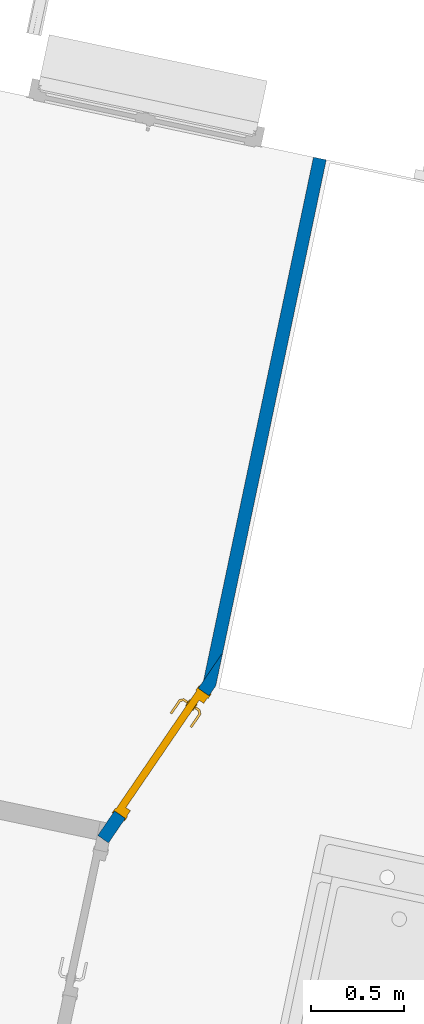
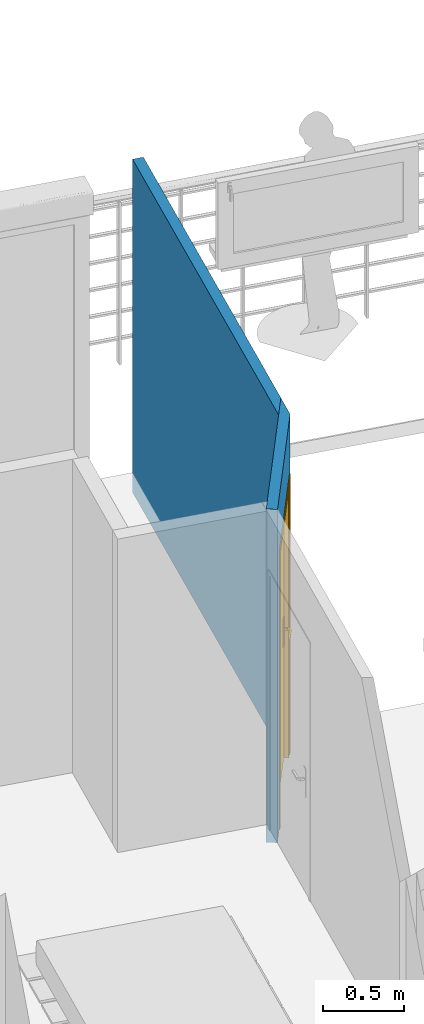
# One storey, part 8 of 18: 2 walls, 1 door, 1 opening.
"""IFC2X3 building model written with IfcOpenShell, lengths in metres."""

from ifc_helpers import new_model, entity, si_unit, converted_unit, derived_unit, direction, frame, frame_2d, origin, place, context, subcontext, project, spatial, polyline, rectangle, outline, extrude, faceted_brep, source, transform, mapped, material, material_list, layer, layer_set, layer_usage, type_object, type_shapes, element, fill, save


model = new_model("IFC2X3")

# Units and contexts
model_context = context("Model", 3, precision=1e-05, world=origin(), true_north=direction((6.12303176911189e-17, 1.0)))
body_context = subcontext(model_context, "Body", "Model", "MODEL_VIEW")
ifc_project = project(units=[si_unit("LENGTHUNIT", "METRE"), si_unit("AREAUNIT", "SQUARE_METRE"), si_unit("VOLUMEUNIT", "CUBIC_METRE"), converted_unit("PLANEANGLEUNIT", "DEGREE", entity("IfcRatioMeasure", 0.0174532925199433), si_unit("PLANEANGLEUNIT", "RADIAN"), dimensions=[0, 0, 0, 0, 0, 0, 0]), si_unit("MASSUNIT", "GRAM", prefix="KILO"), derived_unit("MASSDENSITYUNIT", [(si_unit("MASSUNIT", "GRAM", prefix="KILO"), 1), (si_unit("LENGTHUNIT", "METRE"), -3)]), si_unit("TIMEUNIT", "SECOND"), si_unit("FREQUENCYUNIT", "HERTZ"), si_unit("THERMODYNAMICTEMPERATUREUNIT", "DEGREE_CELSIUS"), derived_unit("THERMALTRANSMITTANCEUNIT", [(si_unit("MASSUNIT", "GRAM", prefix="KILO"), 1), (si_unit("THERMODYNAMICTEMPERATUREUNIT", "KELVIN"), -1), (si_unit("TIMEUNIT", "SECOND"), -3)]), derived_unit("VOLUMETRICFLOWRATEUNIT", [(si_unit("LENGTHUNIT", "METRE"), 3), (si_unit("TIMEUNIT", "SECOND"), -1)]), si_unit("ELECTRICCURRENTUNIT", "AMPERE"), si_unit("ELECTRICVOLTAGEUNIT", "VOLT"), si_unit("POWERUNIT", "WATT"), si_unit("FORCEUNIT", "NEWTON", prefix="KILO"), si_unit("ILLUMINANCEUNIT", "LUX"), si_unit("LUMINOUSFLUXUNIT", "LUMEN"), si_unit("LUMINOUSINTENSITYUNIT", "CANDELA"), derived_unit("USERDEFINED", [(si_unit("MASSUNIT", "GRAM", prefix="KILO"), -1), (si_unit("LENGTHUNIT", "METRE"), -2), (si_unit("TIMEUNIT", "SECOND"), 3), (si_unit("LUMINOUSFLUXUNIT", "LUMEN"), 1)]), derived_unit("LINEARVELOCITYUNIT", [(si_unit("LENGTHUNIT", "METRE"), 1), (si_unit("TIMEUNIT", "SECOND"), -1)]), si_unit("PRESSUREUNIT", "PASCAL"), derived_unit("USERDEFINED", [(si_unit("LENGTHUNIT", "METRE"), -2), (si_unit("MASSUNIT", "GRAM", prefix="KILO"), 1), (si_unit("TIMEUNIT", "SECOND"), -2)])], contexts=[model_context])

# Site, building, storey
site_placement = place(None, origin())
site = spatial("IfcSite", under=ifc_project, at=site_placement, Name="Default", CompositionType="ELEMENT")
building_placement = place(site_placement, origin())
building = spatial("IfcBuilding", under=site, at=building_placement, CompositionType="ELEMENT")
storey_placement = place(building_placement, frame((0.0, 0.0, 2.8)))
storey = spatial("IfcBuildingStorey", under=building, at=storey_placement, Name="ETAGE", CompositionType="ELEMENT", Elevation=2.8)

# Wall
ifc_material_1 = material(Name="Mur par défaut")
ifc_layer = layer(ifc_material_1, 0.07)
ifc_layer_set = layer_set([ifc_layer], Name="Mur de base:Int.  Platre 70 mm")
ifc_layer_usage_1 = layer_usage(ifc_layer_set, "AXIS2", "NEGATIVE", 0.035)
wall_type = type_object("IfcWallType", Name="Mur de base:Int.  Platre 70 mm", PredefinedType="STANDARD", material=ifc_layer_set)
wall_1_placement = place(storey_placement, frame((-14.3448681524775, 82.8495747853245, 0.0), z_axis=(0.0, 0.0, 1.0), x_axis=(0.205556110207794, 0.978645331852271, 0.0)))
element("IfcWallStandardCase", 1, at=wall_1_placement, inside=storey, type_object=wall_type, material=ifc_layer_usage_1, Name="Mur de base:Int.  Platre 70 mm", ObjectType="Mur de base:Int.  Platre 70 mm", context=body_context, shape_type="SweptSolid", body=[
    extrude(outline(polyline([(2.88155304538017, -0.0350000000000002), (2.88169099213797, 0.0350000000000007), (0.0, 0.0350000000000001), (0.169300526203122, -0.0349999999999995), (2.88155304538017, -0.0350000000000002)])), origin(), (0.0, 0.0, 1.0), 2.5),
])

# Wall, opening, door
ifc_layer_usage_2 = layer_usage(ifc_layer_set, "AXIS2", "NEGATIVE", 0.035)
wall_2_placement = place(storey_placement, frame((-14.919877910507, 82.0027372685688, 0.0), z_axis=(0.0, 0.0, 1.0), x_axis=(0.563893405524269, 0.825847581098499, 0.0)))
wall_2 = element("IfcWallStandardCase", 2, at=wall_2_placement, inside=storey, type_object=wall_type, material=ifc_layer_usage_2, Name="Mur de base:Int.  Platre 70 mm", ObjectType="Mur de base:Int.  Platre 70 mm", context=body_context, shape_type="SweptSolid", body=[
    extrude(outline(polyline([(0.0, -0.0350000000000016), (1.02413029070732, -0.0350000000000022), (1.19343081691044, 0.0349999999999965), (1.01022964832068, 0.0349999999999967), (0.0, 0.0349999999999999), (0.0, -0.0350000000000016)])), origin(), (0.0, 0.0, 1.0), 2.5),
])
opening_placement = place(wall_2_placement, frame((0.15999999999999, -0.035, 0.0)))
opening = element("IfcOpeningElement", 3, at=opening_placement, cuts=wall_2, Name="Int. Simple:PP (0.73m x 2.04m):1", ObjectType="Opening", context=body_context, shape_type="SweptSolid", body=[
    extrude(rectangle(XDim=2.075, YDim=0.799999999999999, at=frame_2d((1.0375, 0.400000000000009), x_axis=(1.0, 0.0))), frame((0.0, 0.0, 0.0), z_axis=(0.0, 1.0, 0.0), x_axis=(0.0, 0.0, 1.0)), (0.0, 0.0, 1.0), 0.07),
])
ifc_material_2 = material(Name="Finition Peinture - Blanc satiné")
ifc_material_3 = material(Name="Bois - Mélaminé hêtre")
ifc_material_list_1 = material_list([ifc_material_2, ifc_material_3])
ifc_material_list_2 = material_list([ifc_material_2, ifc_material_3])
door_style = type_object("IfcDoorStyle", Name="PP (0.73m x 2.04m)", ConstructionType="NOTDEFINED", OperationType="SINGLE_SWING_LEFT", ParameterTakesPrecedence=False, Sizeable=False, material=ifc_material_list_2)
shared_shape = source(origin(), body_context, "Body", "Brep", [
    faceted_brep([(0.105352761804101, -0.00500000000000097, 0.866003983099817), (0.115, -0.00500000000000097, 0.870000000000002), (0.114999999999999, -0.00500000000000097, 1.08), (0.1053527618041, -0.00500000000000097, 1.08399601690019), (0.0949999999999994, -0.00500000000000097, 1.08535898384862), (0.0846472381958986, -0.00500000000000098, 1.08399601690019), (0.0749999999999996, -0.00500000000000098, 1.08), (0.0750000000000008, -0.00500000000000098, 0.870000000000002), (0.0846472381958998, -0.00500000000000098, 0.866003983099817), (0.0950000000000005, -0.00500000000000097, 0.86464101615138), (0.1053527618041, 0.0, 1.08399601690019), (0.114999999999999, 0.0, 1.08), (0.115, 0.0, 0.870000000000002), (0.105352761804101, 0.0, 0.866003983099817), (0.0950000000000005, 0.0, 0.86464101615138), (0.0846472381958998, 0.0, 0.866003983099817), (0.0749999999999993, 0.0, 0.870000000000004), (0.0749999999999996, 0.0, 1.08), (0.0846472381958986, 0.0, 1.08399601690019), (0.0949999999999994, 0.0, 1.08535898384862)], [[[0, 1, 2, 3, 4, 5, 6, 7, 8, 9]], [[10, 11, 12, 13, 14, 15, 16, 17, 18, 19]], [[16, 15, 8, 7]], [[8, 15, 14, 9]], [[14, 13, 0, 9]], [[13, 12, 1, 0]], [[2, 1, 12, 11]], [[11, 10, 3, 2]], [[3, 10, 19, 4]], [[19, 18, 5, 4]], [[18, 17, 6, 5]], [[7, 6, 17, 16]]]),
    faceted_brep([(0.105352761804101, 0.039999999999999, 0.866003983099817), (0.115, 0.039999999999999, 0.870000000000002), (0.114999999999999, 0.039999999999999, 1.08), (0.1053527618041, 0.039999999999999, 1.08399601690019), (0.094999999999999, 0.039999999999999, 1.08535898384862), (0.0846472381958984, 0.039999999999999, 1.08399601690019), (0.0749999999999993, 0.039999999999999, 1.08), (0.0750000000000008, 0.039999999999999, 0.870000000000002), (0.0846472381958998, 0.039999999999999, 0.866003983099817), (0.0950000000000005, 0.039999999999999, 0.86464101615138), (0.1053527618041, 0.044999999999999, 1.08399601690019), (0.114999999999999, 0.044999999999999, 1.08), (0.115, 0.044999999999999, 0.870000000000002), (0.105352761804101, 0.044999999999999, 0.866003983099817), (0.0950000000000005, 0.044999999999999, 0.86464101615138), (0.0846472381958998, 0.044999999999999, 0.866003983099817), (0.0749999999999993, 0.044999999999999, 0.870000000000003), (0.0749999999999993, 0.044999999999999, 1.08), (0.0846472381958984, 0.044999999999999, 1.08399601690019), (0.094999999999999, 0.044999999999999, 1.08535898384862)], [[[0, 1, 2, 3, 4, 5, 6, 7, 8, 9]], [[10, 11, 12, 13, 14, 15, 16, 17, 18, 19]], [[11, 10, 3, 2]], [[3, 10, 19, 4]], [[19, 18, 5, 4]], [[18, 17, 6, 5]], [[7, 6, 17, 16]], [[16, 15, 8, 7]], [[8, 15, 14, 9]], [[14, 13, 0, 9]], [[13, 12, 1, 0]], [[2, 1, 12, 11]]]),
    faceted_brep([(0.0929747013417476, -0.00500000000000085, 1.00778044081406), (0.0970252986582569, -0.00500000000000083, 1.00778044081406), (0.101000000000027, -0.00500000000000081, 1.00699999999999), (0.101000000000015, -0.00500000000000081, 0.993000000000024), (0.0970252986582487, -0.00500000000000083, 0.992219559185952), (0.0929747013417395, -0.00500000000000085, 0.99221955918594), (0.0889999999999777, -0.00500000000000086, 0.992999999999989), (0.0889999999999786, -0.00500000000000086, 1.007), (0.0889999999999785, -0.0326509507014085, 1.007), (0.0929747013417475, -0.0310045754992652, 1.00778044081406), (0.109023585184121, -0.047053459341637, 1.00778044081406), (0.110701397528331, -0.0430028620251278, 1.00778044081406), (0.0970252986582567, -0.0293267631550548, 1.00778044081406), (0.101000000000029, -0.0276803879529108, 1.007), (0.101000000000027, -0.0276803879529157, 0.993000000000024), (0.0970252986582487, -0.0293267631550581, 0.992219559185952), (0.110701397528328, -0.0430028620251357, 0.992219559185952), (0.109023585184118, -0.0470534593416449, 0.99221955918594), (0.0929747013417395, -0.0310045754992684, 0.99221955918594), (0.0889999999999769, -0.0326509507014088, 0.992999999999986), (0.107377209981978, -0.051028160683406, 1.007), (0.112347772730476, -0.039028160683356, 1.007), (0.112347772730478, -0.0390281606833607, 0.993000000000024), (0.107377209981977, -0.0510281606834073, 0.992999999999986), (0.195018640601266, -0.051028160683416, 0.992999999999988), (0.195018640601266, -0.0470534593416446, 0.99221955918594), (0.195018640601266, -0.0430028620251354, 0.992219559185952), (0.195018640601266, -0.0390281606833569, 0.993000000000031), (0.195018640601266, -0.0390281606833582, 1.007), (0.195018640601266, -0.0430028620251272, 1.00778044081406), (0.195018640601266, -0.0470534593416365, 1.00778044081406), (0.195018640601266, -0.0510281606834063, 1.00699999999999), (0.147307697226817, -0.0510281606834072, 1.007), (0.152860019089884, -0.0450281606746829, 1.0078786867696), (0.15368320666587, -0.0390281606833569, 1.007), (0.153683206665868, -0.0390281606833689, 0.993000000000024), (0.152860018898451, -0.0450281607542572, 0.992121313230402), (0.147307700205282, -0.0510281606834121, 0.992999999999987)], [[[0, 1, 2, 3, 4, 5, 6, 7]], [[8, 9, 0, 7]], [[9, 10, 11, 12, 1, 0]], [[12, 13, 2, 1]], [[3, 2, 13, 14]], [[14, 15, 4, 3]], [[15, 16, 17, 18, 5, 4]], [[18, 19, 6, 5]], [[7, 6, 19, 8]], [[20, 10, 9, 8]], [[11, 21, 13, 12]], [[14, 13, 21, 22]], [[22, 16, 15, 14]], [[17, 23, 19, 18]], [[8, 19, 23, 20]], [[24, 25, 26, 27, 28, 29, 30, 31]], [[32, 30, 33]], [[31, 30, 32]], [[10, 20, 32]], [[33, 34, 11]], [[21, 11, 34]], [[34, 29, 28]], [[30, 29, 33]], [[29, 34, 33]], [[10, 32, 33]], [[10, 33, 11]], [[22, 21, 34, 28, 27, 35]], [[35, 26, 36]], [[37, 36, 25]], [[22, 35, 16]], [[35, 27, 26]], [[24, 37, 25]], [[23, 17, 37]], [[37, 17, 36]], [[17, 16, 36]], [[16, 35, 36]], [[25, 36, 26]], [[20, 23, 37, 24, 31, 32]]]),
    faceted_brep([(0.0929747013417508, 0.0449999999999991, 1.00778044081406), (0.0889999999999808, 0.0449999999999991, 1.007), (0.0889999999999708, 0.0449999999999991, 0.992999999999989), (0.0929747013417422, 0.0449999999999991, 0.99221955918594), (0.0970252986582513, 0.0449999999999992, 0.992219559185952), (0.10100000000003, 0.0449999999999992, 0.993000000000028), (0.101000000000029, 0.0449999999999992, 1.007), (0.0970252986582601, 0.0449999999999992, 1.00778044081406), (0.10100000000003, 0.0674852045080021, 0.993000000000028), (0.10100000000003, 0.0674852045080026, 1.007), (0.0970252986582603, 0.0691315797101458, 1.00778044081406), (0.110838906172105, 0.0829451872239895, 1.00778044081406), (0.109161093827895, 0.0869957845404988, 1.00778044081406), (0.092974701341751, 0.070809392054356, 1.00778044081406), (0.0889999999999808, 0.0724557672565, 1.007), (0.0889999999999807, 0.0724557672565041, 0.992999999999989), (0.0929747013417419, 0.0708093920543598, 0.99221955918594), (0.109161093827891, 0.0869957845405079, 0.99221955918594), (0.110838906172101, 0.0829451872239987, 0.992219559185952), (0.0970252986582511, 0.0691315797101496, 0.992219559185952), (0.112485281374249, 0.0789704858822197, 0.993000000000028), (0.112485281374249, 0.07897048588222, 1.007), (0.107514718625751, 0.090970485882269, 1.007), (0.107514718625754, 0.0909704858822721, 0.992999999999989), (0.195045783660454, 0.0789704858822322, 0.993000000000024), (0.195045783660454, 0.0829451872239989, 0.992219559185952), (0.195045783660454, 0.0869957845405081, 0.99221955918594), (0.195045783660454, 0.0909704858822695, 0.992999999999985), (0.195045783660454, 0.0909704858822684, 1.007), (0.195045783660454, 0.0869957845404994, 1.00778044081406), (0.195045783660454, 0.0829451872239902, 1.00778044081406), (0.195045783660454, 0.07897048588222, 1.007), (0.153765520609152, 0.0789704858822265, 0.993000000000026), (0.153765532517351, 0.0789704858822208, 1.007), (0.152942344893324, 0.0849704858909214, 1.0078786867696), (0.147445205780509, 0.0909704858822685, 1.007), (0.147445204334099, 0.0909704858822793, 0.992999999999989), (0.152942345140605, 0.0849704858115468, 0.992121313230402)], [[[0, 1, 2, 3, 4, 5, 6, 7]], [[6, 5, 8, 9]], [[9, 10, 7, 6]], [[10, 11, 12, 13, 0, 7]], [[13, 14, 1, 0]], [[2, 1, 14, 15]], [[15, 16, 3, 2]], [[16, 17, 18, 19, 4, 3]], [[19, 8, 5, 4]], [[9, 8, 20, 21]], [[21, 11, 10, 9]], [[12, 22, 14, 13]], [[15, 14, 22, 23]], [[23, 17, 16, 15]], [[18, 20, 8, 19]], [[24, 25, 26, 27, 28, 29, 30, 31]], [[21, 20, 32, 24, 31, 33]], [[33, 30, 34]], [[35, 34, 29]], [[21, 33, 11]], [[33, 31, 30]], [[28, 35, 29]], [[22, 12, 35]], [[35, 12, 34]], [[12, 11, 34]], [[11, 33, 34]], [[29, 34, 30]], [[22, 35, 28, 27, 36, 23]], [[36, 26, 37]], [[27, 26, 36]], [[17, 23, 36]], [[37, 32, 18]], [[20, 18, 32]], [[32, 25, 24]], [[26, 25, 37]], [[25, 32, 37]], [[17, 36, 37]], [[17, 37, 18]]]),
    faceted_brep([(0.0349999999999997, 0.0400000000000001, 2.04), (0.765, 0.0400000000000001, 2.04), (0.765, 0.0400000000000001, 0.0), (0.0349999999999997, 0.0400000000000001, 0.0), (0.0349999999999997, 0.0, 2.04), (0.0349999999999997, 0.0, 0.0), (0.765, 0.0, 0.0), (0.765, 0.0, 2.04)], [[[0, 1, 2, 3]], [[4, 5, 6, 7]], [[1, 0, 4, 7]], [[2, 1, 7, 6]], [[3, 2, 6, 5]], [[0, 3, 5, 4]]]),
    faceted_brep([(0.0, 0.0, 0.0), (0.0, 0.0699999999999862, 0.0), (0.0500000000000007, 0.0699999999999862, 0.0), (0.0500000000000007, 0.04, 0.0), (0.0349999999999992, 0.04, 0.0), (0.0349999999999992, 0.0, 0.0), (0.0, 0.0, 2.07500000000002), (0.0, 0.0699999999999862, 2.07500000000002), (0.800000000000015, 0.0699999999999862, 2.07500000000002), (0.800000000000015, 0.0699999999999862, 0.0), (0.749999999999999, 0.0699999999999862, 0.0), (0.749999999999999, 0.0699999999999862, 2.025), (0.0500000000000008, 0.0699999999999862, 2.025), (0.0500000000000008, 0.04, 2.025), (0.749999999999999, 0.04, 2.025), (0.749999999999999, 0.04, 0.0), (0.765000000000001, 0.04, 0.0), (0.765000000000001, 0.04, 2.04), (0.0349999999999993, 0.04, 2.04), (0.0349999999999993, 0.0, 2.04), (0.765000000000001, 0.0, 2.04), (0.765000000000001, 0.0, 0.0), (0.800000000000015, 0.0, 0.0), (0.800000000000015, 0.0, 2.07500000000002)], [[[0, 1, 2, 3, 4, 5]], [[1, 0, 6, 7]], [[2, 1, 7, 8, 9, 10, 11, 12]], [[3, 2, 12, 13]], [[4, 3, 13, 14, 15, 16, 17, 18]], [[5, 4, 18, 19]], [[0, 5, 19, 20, 21, 22, 23, 6]], [[8, 23, 22, 9]], [[22, 21, 16, 15, 10, 9]], [[14, 11, 10, 15]], [[20, 17, 16, 21]], [[7, 6, 23, 8]], [[13, 12, 11, 14]], [[19, 18, 17, 20]]]),
    faceted_brep([(0.0149999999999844, 0.0699999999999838, 0.0), (-0.0150000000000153, 0.0699999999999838, 0.0), (-0.0150000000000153, 0.0749999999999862, 0.0), (0.0149999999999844, 0.0749999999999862, 0.0), (0.0149999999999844, 0.0699999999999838, 2.06000000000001), (0.784999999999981, 0.0699999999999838, 2.06000000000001), (0.784999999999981, 0.0699999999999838, 0.0), (0.81499999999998, 0.0699999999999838, 0.0), (0.81499999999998, 0.0699999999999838, 2.09000000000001), (-0.0150000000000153, 0.0699999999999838, 2.09000000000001), (-0.0150000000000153, 0.0749999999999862, 2.09000000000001), (0.81499999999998, 0.0749999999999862, 2.09000000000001), (0.81499999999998, 0.0749999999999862, 0.0), (0.784999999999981, 0.0749999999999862, 0.0), (0.784999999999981, 0.0749999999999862, 2.06000000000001), (0.0149999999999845, 0.0749999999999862, 2.06000000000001)], [[[0, 1, 2, 3]], [[1, 0, 4, 5, 6, 7, 8, 9]], [[2, 1, 9, 10]], [[3, 2, 10, 11, 12, 13, 14, 15]], [[0, 3, 15, 4]], [[6, 13, 12, 7]], [[5, 14, 13, 6]], [[11, 8, 7, 12]], [[10, 9, 8, 11]], [[4, 15, 14, 5]]]),
    faceted_brep([(-0.0150000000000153, -0.00499999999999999, 0.0), (0.0149999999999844, -0.00499999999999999, 0.0), (0.0149999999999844, -0.00499999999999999, 2.06000000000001), (0.784999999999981, -0.00499999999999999, 2.06000000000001), (0.784999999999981, -0.00499999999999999, 0.0), (0.81499999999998, -0.00499999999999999, 0.0), (0.81499999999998, -0.00499999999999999, 2.09000000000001), (-0.0150000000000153, -0.00499999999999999, 2.09000000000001), (-0.0150000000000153, 0.0, 0.0), (-0.0150000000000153, 0.0, 2.09000000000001), (0.0149999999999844, 0.0, 0.0), (0.81499999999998, 0.0, 2.09000000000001), (0.81499999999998, 0.0, 0.0), (0.784999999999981, 0.0, 0.0), (0.784999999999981, 0.0, 2.06000000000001), (0.0149999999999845, 0.0, 2.06000000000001)], [[[0, 1, 2, 3, 4, 5, 6, 7]], [[8, 0, 7, 9]], [[10, 8, 9, 11, 12, 13, 14, 15]], [[1, 10, 15, 2]], [[3, 14, 13, 4]], [[11, 6, 5, 12]], [[9, 7, 6, 11]], [[2, 15, 14, 3]], [[4, 13, 12, 5]], [[1, 0, 8, 10]]]),
])
type_shapes(door_style, [shared_shape])
door_placement = place(opening_placement, frame((0.800000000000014, 0.0700000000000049, 0.0), z_axis=(0.0, 0.0, 1.0), x_axis=(-1.0, 0.0, 0.0)))
door = element("IfcDoor", 4, at=door_placement, inside=storey, type_object=door_style, material=ifc_material_list_1, Name="Int. Simple:PP (0.73m x 2.04m)", ObjectType="Int. Simple:PP (0.73m x 2.04m)", OverallHeight=2.075, OverallWidth=0.800000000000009, context=body_context, shape_type="MappedRepresentation", body=[
    mapped(shared_shape, transform((0.0, 0.0, 0.0), scale=1.0)),
])
fill(opening, door)

save(model, "model.ifc")
